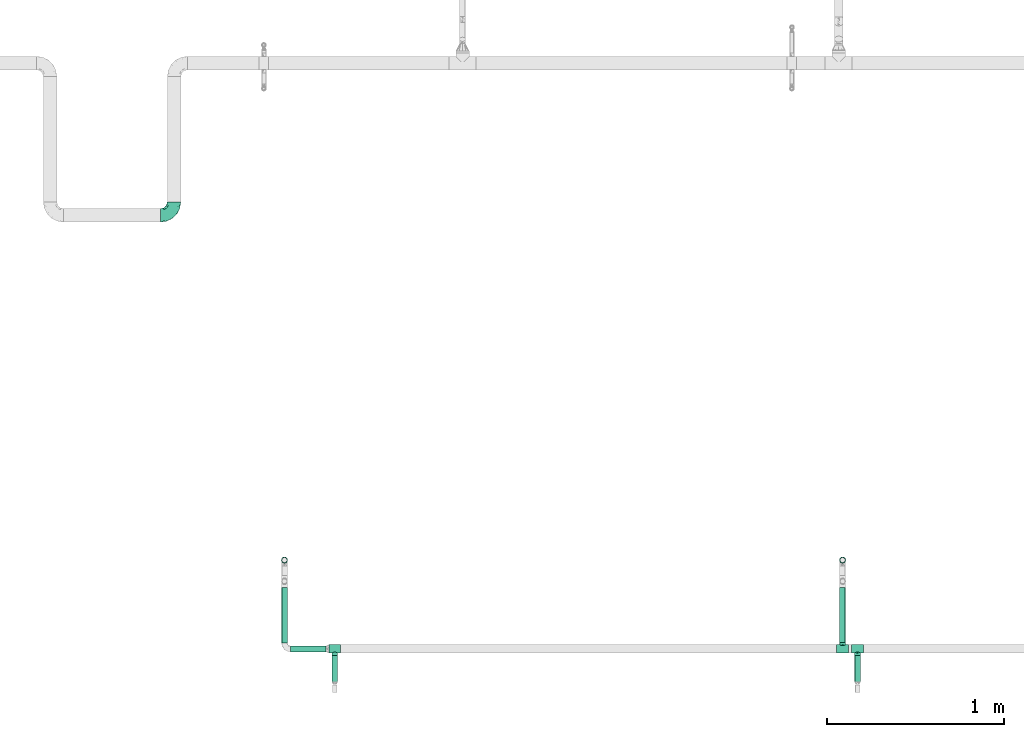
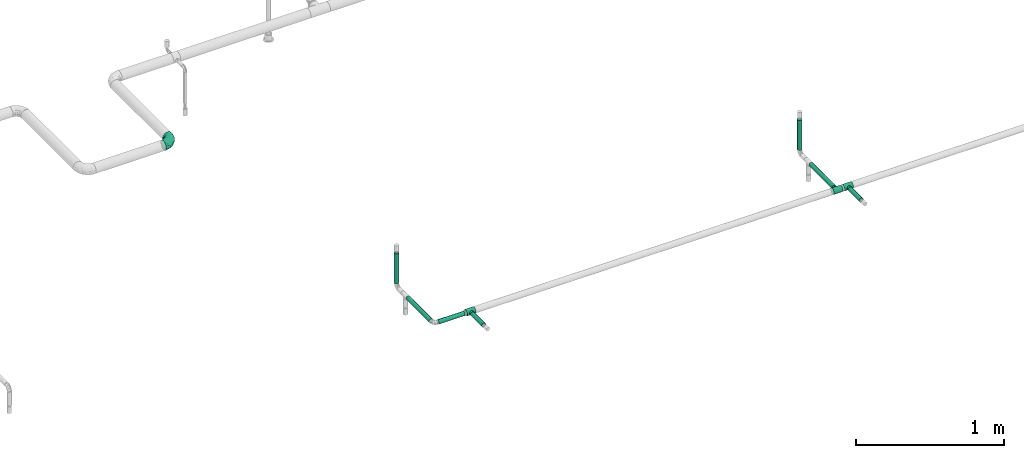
# One storey, part 3 of 51: 7 flow segments, 4 flow fittings.
"""IFC2X3 building model written with IfcOpenShell, lengths in millimetres."""

from ifc_helpers import new_model, entity, si_unit, converted_unit, derived_unit, direction, frame, origin_with_axes, origin_2d_with_axis, place, context, subcontext, project, spatial, hollow_circle, extrude, open_shell, surface_model, source, transform, mapped, type_object, element, save


model = new_model("IFC2X3")

# Units and contexts
model_context = context("Model", 3, precision=0.01, world=frame((0.0, 4.29681676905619e-09, 0.0)), true_north=direction((4.01073788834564e-13, 1.0)))
plan_context = context("Plan", 3, precision=0.01, world=frame((0.0, 4.29681676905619e-09, 0.0)), true_north=direction((4.01073788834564e-13, 1.0)))
body_context = subcontext(model_context, "Body", "Model", "MODEL_VIEW")
ifc_project = project(units=[converted_unit("PLANEANGLEUNIT", "DEGREE", entity("IfcPositiveLengthMeasure", 0.0174532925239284), si_unit("PLANEANGLEUNIT", "RADIAN"), dimensions=[0, 0, 0, 0, 0, 0, 0]), si_unit("AREAUNIT", "SQUARE_METRE"), si_unit("LENGTHUNIT", "METRE", prefix="MILLI"), si_unit("MASSUNIT", "GRAM", prefix="KILO"), si_unit("POWERUNIT", "WATT"), si_unit("PRESSUREUNIT", "PASCAL"), si_unit("FORCEUNIT", "NEWTON", prefix="KILO"), si_unit("ELECTRICVOLTAGEUNIT", "VOLT"), si_unit("ELECTRICCURRENTUNIT", "AMPERE"), si_unit("THERMODYNAMICTEMPERATUREUNIT", "DEGREE_CELSIUS"), si_unit("TIMEUNIT", "SECOND"), si_unit("VOLUMEUNIT", "CUBIC_METRE"), derived_unit("LINEARVELOCITYUNIT", [(si_unit("LENGTHUNIT", "METRE"), 1), (si_unit("TIMEUNIT", "SECOND"), -1)]), derived_unit("VOLUMETRICFLOWRATEUNIT", [(si_unit("VOLUMEUNIT", "CUBIC_METRE"), 1), (si_unit("TIMEUNIT", "SECOND"), -1)]), derived_unit("THERMALTRANSMITTANCEUNIT", [(si_unit("POWERUNIT", "WATT"), 1), (si_unit("THERMODYNAMICTEMPERATUREUNIT", "KELVIN"), -1), (si_unit("AREAUNIT", "SQUARE_METRE"), -1)]), derived_unit("SOUNDPRESSUREUNIT", [(si_unit("PRESSUREUNIT", "PASCAL"), 1)])], contexts=[model_context, plan_context])

# Site, building, storey
site_placement = place(None, frame((0.0, -4.29681676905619e-09, 0.0), z_axis=(0.0, 0.0, 1.0), x_axis=(1.0, 0.0, 0.0)))
site = spatial("IfcSite", under=ifc_project, at=site_placement, Name="ENGM", CompositionType="ELEMENT")
building_placement = place(site_placement, frame((0.0, 4.29681676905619e-09, 0.0), z_axis=(0.0, 0.0, 1.0), x_axis=(1.0, 0.0, 0.0)))
building = spatial("IfcBuilding", under=site, at=building_placement, Name="TH", CompositionType="ELEMENT")
storey_placement = place(building_placement, frame((0.0, 0.0, 210200.0), z_axis=(0.0, 0.0, 1.0), x_axis=(1.0, 0.0, 0.0)))
storey = spatial("IfcBuildingStorey", under=building, at=storey_placement, Name="Nivå F - 0,7 m", CompositionType="ELEMENT", Elevation=210200.0)

# Flow fittings
pipe_fitting_type_1 = type_object("IfcPipeFittingType", Name="magi_pipe_fe_tee_centric_90_NOR", PredefinedType="JUNCTION")
shared_shape_1 = source(origin_with_axes(), body_context, "Body", "SurfaceModel", [
    surface_model("IfcShellBasedSurfaceModel", [(-33.8, 0.0, -24.2), (-33.8, -6.26342, -23.37541), (-33.8, 6.26342, -23.37541), (-33.8, 12.1, -20.95781), (-33.8, 17.11198, -17.11198), (-33.8, 20.95781, -12.1), (-33.8, -23.37541, -6.26342), (-33.8, 23.37541, -6.26342), (-33.8, -17.11198, -17.11198), (-33.8, -20.95781, -12.1), (-33.8, -12.1, -20.95781), (-33.8, -24.2, 0.0), (-33.8, -23.37541, 6.26342), (-33.8, 20.95781, 12.1), (-33.8, 23.37541, 6.26342), (-33.8, 24.2, 0.0), (-33.8, 12.1, 20.95781), (-33.8, 17.11198, 17.11198), (-33.8, -17.11198, 17.11198), (-33.8, 6.26342, 23.37541), (-33.8, -20.95781, 12.1), (-33.8, -12.1, 20.95781), (-33.8, -6.26342, 23.37541), (-33.8, 0.0, 24.2), (33.8, 6.26342, -23.37541), (33.8, -6.26342, -23.37541), (33.8, 0.0, -24.2), (33.8, 17.11198, -17.11198), (33.8, 12.1, -20.95781), (33.8, -23.37541, -6.26342), (33.8, 20.95781, -12.1), (33.8, 23.37541, -6.26342), (33.8, -17.11198, -17.11198), (33.8, -12.1, -20.95781), (33.8, -20.95781, -12.1), (33.8, -24.2, 0.0), (33.8, 24.2, 0.0), (33.8, 23.37541, 6.26342), (33.8, 20.95781, 12.1), (33.8, -23.37541, 6.26342), (33.8, -17.11198, 17.11198), (33.8, 12.1, 20.95781), (33.8, 17.11198, 17.11198), (33.8, 6.26342, 23.37541), (33.8, -20.95781, 12.1), (33.8, -12.1, 20.95781), (33.8, 0.0, 24.2), (33.8, -6.26342, 23.37541), (15.81824, -23.45734, 5.94922), (16.9, -24.2, 0.0), (12.87025, -21.57947, 10.95293), (33.8, -19.0349, 14.60599), (8.52813, -19.30697, 14.59044), (3.03527, -17.5853, 16.6252), (-3.04044, -17.58619, 16.62425), (-8.52961, -19.30762, 14.58958), (-33.8, -19.0349, 14.60599), (-16.9, -24.2, 0.0), (-15.81885, -23.45775, 5.9476), (-12.87368, -21.58151, 10.9489), (3.03527, -17.5853, -16.6252), (33.8, -19.0349, -14.60599), (8.52813, -19.30697, -14.59044), (-8.52961, -19.30762, -14.58958), (-33.8, -19.0349, -14.60599), (12.87025, -21.57947, -10.95293), (-3.04044, -17.58619, -16.62425), (15.81824, -23.45734, -5.94922), (-12.87368, -21.58151, -10.9489), (-15.81885, -23.45775, -5.9476), (4.37404, -36.3, -16.32415), (-16.9, -36.3, 0.0), (0.0, -36.3, -16.9), (14.63583, -36.3, -8.45), (8.45, -36.3, -14.63583), (16.32415, -36.3, -4.37404), (11.9501, -36.3, -11.9501), (-11.9501, -36.3, -11.9501), (-8.45, -36.3, -14.63583), (-4.37404, -36.3, -16.32415), (-14.63583, -36.3, -8.45), (-16.32415, -36.3, -4.37404), (16.9, -36.3, 0.0), (8.45, -36.3, 14.63583), (16.32415, -36.3, 4.37404), (14.63583, -36.3, 8.45), (-8.45, -36.3, 14.63583), (11.9501, -36.3, 11.9501), (4.37404, -36.3, 16.32415), (-16.32415, -36.3, 4.37404), (-11.9501, -36.3, 11.9501), (-14.63583, -36.3, 8.45), (0.0, -36.3, 16.9), (-4.37404, -36.3, 16.32415), (-16.35943, -23.82888, 2.9738), (16.35912, -23.82867, 2.97461), (-0.00259, -17.58575, 16.62472), (16.35912, -23.82867, -2.97461), (-0.00259, -17.58575, -16.62472), (-16.35943, -23.82888, -2.9738)], [open_shell([[[0, 1, 2]], [[3, 2, 4]], [[5, 2, 6]], [[4, 2, 5]], [[7, 5, 6]], [[8, 9, 10]], [[1, 10, 9]], [[1, 9, 2]], [[9, 6, 2]], [[6, 11, 7]], [[11, 12, 7]], [[13, 14, 15]], [[13, 15, 12]], [[16, 17, 18]], [[12, 17, 13]], [[19, 16, 18]], [[20, 18, 12]], [[18, 17, 12]], [[21, 22, 18]], [[23, 18, 22]], [[18, 23, 19]], [[7, 12, 15]], [[24, 25, 26]], [[27, 24, 28]], [[29, 24, 30]], [[30, 24, 27]], [[29, 30, 31]], [[25, 32, 33]], [[32, 25, 34]], [[24, 34, 25]], [[24, 29, 34]], [[31, 35, 29]], [[31, 36, 35]], [[36, 37, 38]], [[39, 36, 38]], [[40, 38, 41]], [[41, 38, 42]], [[40, 41, 43]], [[39, 40, 44]], [[39, 38, 40]], [[45, 46, 47]], [[46, 45, 40]], [[43, 46, 40]], [[36, 39, 35]], [[35, 39, 48]], [[48, 49, 35]], [[39, 50, 48]], [[51, 40, 52]], [[52, 50, 44]], [[53, 52, 40]], [[54, 53, 21]], [[44, 50, 39]], [[55, 18, 56]], [[57, 58, 11]], [[12, 11, 58]], [[58, 59, 12]], [[55, 54, 18]], [[55, 20, 59]], [[20, 55, 56]], [[59, 20, 12]], [[18, 54, 21]], [[52, 44, 51]], [[53, 40, 45]], [[23, 47, 46]], [[22, 45, 47]], [[19, 46, 43]], [[38, 37, 14]], [[17, 41, 42]], [[13, 42, 38]], [[43, 41, 16]], [[15, 37, 36]], [[21, 45, 22]], [[22, 47, 23]], [[19, 23, 46]], [[43, 16, 19]], [[16, 41, 17]], [[13, 17, 42]], [[14, 13, 38]], [[37, 15, 14]], [[45, 21, 53]], [[5, 31, 30]], [[7, 36, 31]], [[4, 30, 27]], [[26, 25, 1]], [[2, 28, 24]], [[0, 24, 26]], [[27, 28, 3]], [[10, 25, 33]], [[15, 36, 7]], [[7, 31, 5]], [[4, 5, 30]], [[27, 3, 4]], [[3, 28, 2]], [[0, 2, 24]], [[1, 0, 26]], [[25, 10, 1]], [[33, 60, 10]], [[61, 34, 62]], [[63, 9, 64]], [[62, 60, 32]], [[34, 65, 62]], [[66, 10, 60]], [[29, 35, 67]], [[67, 65, 29]], [[49, 67, 35]], [[29, 65, 34]], [[66, 63, 8]], [[62, 32, 61]], [[64, 8, 63]], [[63, 68, 9]], [[8, 10, 66]], [[68, 69, 6]], [[69, 11, 6]], [[11, 69, 57]], [[68, 6, 9]], [[60, 33, 32]], [[70, 71, 72]], [[73, 70, 74]], [[73, 75, 70]], [[73, 74, 76]], [[71, 70, 75]], [[72, 77, 78]], [[78, 79, 72]], [[80, 71, 81]], [[77, 72, 80]], [[71, 80, 72]], [[75, 82, 71]], [[83, 82, 84]], [[83, 84, 85]], [[86, 71, 83]], [[83, 85, 87]], [[86, 83, 88]], [[89, 90, 91]], [[90, 89, 86]], [[86, 92, 93]], [[89, 71, 86]], [[88, 92, 86]], [[83, 71, 82]], [[89, 94, 71]], [[59, 91, 90]], [[89, 91, 58]], [[90, 86, 55]], [[89, 58, 94]], [[94, 57, 71]], [[58, 91, 59]], [[95, 48, 84]], [[55, 93, 54]], [[55, 59, 90]], [[92, 53, 96]], [[55, 86, 93]], [[53, 92, 88]], [[83, 52, 88]], [[87, 85, 50]], [[87, 52, 83]], [[48, 85, 84]], [[87, 50, 52]], [[52, 53, 88]], [[82, 95, 84]], [[48, 50, 85]], [[95, 82, 49]], [[92, 54, 93]], [[96, 54, 92]], [[75, 97, 82]], [[65, 73, 76]], [[75, 73, 67]], [[76, 74, 62]], [[97, 49, 82]], [[67, 73, 65]], [[62, 70, 60]], [[62, 65, 76]], [[72, 66, 98]], [[62, 74, 70]], [[99, 71, 57]], [[99, 69, 81]], [[75, 67, 97]], [[79, 66, 72]], [[69, 80, 81]], [[77, 80, 68]], [[72, 60, 70]], [[79, 63, 66]], [[63, 79, 78]], [[78, 77, 63]], [[63, 77, 68]], [[68, 80, 69]], [[71, 99, 81]], [[98, 60, 72]]])]),
])
for number, where, z_axis, x_axis, name in (
    (1, (903449.82472, 481023.05237, 2700.0), (0.0, 0.0, -1.0), (-1.0, 0.0, 0.0), "magi_pipe_fe_tee_centric_90_NOR"),
    (2, (900499.82472, 481023.05237, 2700.0), (0.0, 0.0, -1.0), (-1.0, 0.0, 0.0), "magi_pipe_fe_tee_centric_90_NOR"),
    (3, (903366.02472, 481023.05237, 2700.0), (0.0, 0.0, 1.0), (-1.0, 0.0, 0.0), "magi_pipe_fe_tee_centric_90_NOR"),
):
    element("IfcFlowFitting", number, at=place(storey_placement, frame(where, z_axis=z_axis, x_axis=x_axis)), inside=storey, type_object=pipe_fitting_type_1, Name=name, context=body_context, shape_type="MappedRepresentation", body=[
        mapped(shared_shape_1, transform((0.0, 0.0, 0.0), scale=1.0)),
    ])
pipe_fitting_type_2 = type_object("IfcPipeFittingType", Name="magi_pipe_fe_elbow_short_001", PredefinedType="BEND")
shared_shape_2 = source(origin_with_axes(), body_context, "Body", "SurfaceModel", [
    surface_model("IfcShellBasedSurfaceModel", [(-76.2, 19.05, -32.99557), (-76.2, 9.86101, -36.80177), (-76.2, 0.0, -38.1), (-76.2, 26.94077, -26.94077), (-76.2, 36.80177, -9.86101), (-76.2, 32.99557, -19.05), (-76.2, -26.94077, -26.94077), (-76.2, -36.80177, -9.86101), (-76.2, -19.05, -32.99557), (-76.2, -9.86101, -36.80177), (-76.2, -32.99557, -19.05), (-76.2, -38.1, 0.0), (-76.2, -36.80177, 9.86101), (-76.2, 26.94077, 26.94077), (-76.2, 36.80177, 9.86101), (-76.2, 32.99557, 19.05), (-76.2, 9.86101, 36.80177), (-76.2, 19.05, 32.99557), (-76.2, 0.0, 38.1), (-76.2, -32.99557, 19.05), (-76.2, -26.94077, 26.94077), (-76.2, -9.86101, 36.80177), (-76.2, -19.05, 32.99557), (-76.2, 38.1, 0.0), (0.0, 76.2, -38.1), (-9.86101, 76.2, -36.80177), (-19.05, 76.2, -32.99557), (-26.94077, 76.2, -26.94077), (-32.99557, 76.2, -19.05), (-36.80177, 76.2, -9.86101), (26.94077, 76.2, -26.94077), (36.80177, 76.2, -9.86101), (9.86101, 76.2, -36.80177), (19.05, 76.2, -32.99557), (32.99557, 76.2, -19.05), (36.80177, 76.2, 9.86101), (38.1, 76.2, 0.0), (-36.80177, 76.2, 9.86101), (-26.94077, 76.2, 26.94077), (-32.99557, 76.2, 19.05), (-19.05, 76.2, 32.99557), (-9.86101, 76.2, 36.80177), (0.0, 76.2, 38.1), (26.94077, 76.2, 26.94077), (32.99557, 76.2, 19.05), (9.86101, 76.2, 36.80177), (19.05, 76.2, 32.99557), (-38.1, 76.2, 0.0), (-51.47253, -33.41495, 11.97429), (-55.87921, -29.59735, 21.38675), (-40.87936, -32.50576, 0.0), (-57.46182, -35.13216, 0.0), (-9.7569, -13.15819, 14.69187), (-2.65186, -10.17769, 8.01257), (2.20082, -2.20082, 15.78668), (-58.2046, -5.04721, 37.4484), (-53.35237, 5.84022, 38.03506), (13.01533, 9.30417, 14.3119), (23.26567, 31.00373, 18.95093), (8.92292, 13.82363, 24.31711), (-37.93212, -0.34191, 36.92855), (-55.73356, -14.37507, 34.26516), (-29.5907, -8.99996, 31.84562), (-48.87429, -21.76577, 28.30344), (-34.13735, -29.20196, 7.83838), (-24.94775, -24.3882, 0.0), (-13.82363, -8.92292, 24.31711), (-6.80575, 6.80575, 31.14998), (-37.24299, 60.80967, 16.55959), (-31.82754, 59.31737, 25.03043), (-14.22204, 65.71998, 35.68746), (-5.22176, 56.99222, 38.00642), (-58.73143, 14.94265, 35.9909), (-9.94517, 25.51838, 37.4103), (-18.93111, 6.98952, 35.57772), (-3.89226, 20.58438, 35.01344), (-65.91802, 23.07271, 31.04479), (-13.24152, 37.4675, 38.03164), (-28.22122, 28.22122, 37.17425), (-22.68668, 16.64938, 37.90374), (-60.23482, 40.58212, 8.37688), (-60.8286, 37.23683, 16.55705), (-47.30619, 47.30619, 14.2421), (-59.55922, 31.76102, 25.00381), (21.76577, 48.87429, 28.30344), (-39.51357, 50.50487, 21.56421), (14.37507, 55.73356, 34.26516), (29.59735, 55.87921, 21.38675), (33.41495, 51.47253, 11.97429), (-9.01615, -16.27064, 0.0), (-18.50075, -20.95742, 9.87146), (5.04721, 58.2046, 37.4484), (-41.86713, 16.32002, 37.41817), (-37.38612, 9.33613, 38.08374), (24.3882, 24.94775, 0.0), (29.20196, 34.13735, 7.83838), (20.95742, 18.50075, 9.87146), (35.13216, 57.46182, 0.0), (-40.50473, 25.85184, 35.24027), (-31.00373, -23.26567, 18.95093), (-27.62233, 49.24446, 32.02197), (-23.27638, 63.88751, 31.20285), (-40.10509, 61.46399, 8.17366), (-47.75011, 49.97248, 6.70535), (17.55292, 30.69115, 25.82241), (8.99996, 29.5907, 31.84562), (-43.20443, 57.15, 0.0), (-35.27088, 40.23417, 31.3068), (-52.46543, 25.86294, 32.08413), (-0.58232, 0.58231, 22.50977), (-21.74145, 39.43998, 36.62577), (-30.35377, 36.8865, 34.66668), (-16.47755, 51.62643, 36.28492), (-40.16133, 42.54966, 26.98796), (-48.93373, 40.93898, 21.24545), (0.34191, 37.93212, 36.92855), (-30.54899, -16.70018, 26.56572), (10.38979, 2.76708, 7.59679), (32.50576, 40.87936, 0.0), (16.27064, 9.01615, 0.0), (-57.15, 43.20443, 0.0), (3.62725, -3.62725, 0.0), (-56.18403, 32.81229, -25.37784), (-60.79374, 37.24818, -16.56172), (-31.12583, -9.61531, -31.96506), (-33.08389, -0.47526, -36.23756), (-15.30809, -0.63756, -31.219), (-60.31522, 4.8175, -37.976), (-55.58208, -34.10815, -12.42093), (-47.87166, -28.25416, -20.6363), (-36.35476, -28.57081, -12.78243), (-55.4317, 15.55274, -36.12913), (-41.97308, 9.00674, -38.09177), (-32.8123, 56.18403, -25.37784), (-61.68117, 39.97816, -8.33686), (-23.91371, 59.81378, -31.51803), (-15.55274, 55.4317, -36.12913), (-48.48008, 48.48008, -9.09668), (22.76239, 55.12076, -28.76608), (13.14871, 48.24989, -33.88525), (15.02018, 64.34702, -34.67535), (-7.42295, -13.4022, -10.03386), (-7.53093, -9.8797, -17.36177), (4.09889, -3.23385, -10.05311), (-22.23209, 20.60173, -38.07837), (-36.11879, 22.54399, -36.96599), (-59.81378, 23.91371, -31.51803), (-64.14494, -30.32973, -22.13621), (-37.06617, 43.2809, -28.69704), (-35.21221, 35.21221, -33.45314), (-46.56802, 32.18433, -30.26847), (3.32253, -0.70027, -16.3296), (-55.12076, -22.76239, -28.76608), (28.25416, 47.87166, -20.6363), (34.10815, 55.58208, -12.42093), (28.57081, 36.35476, -12.78243), (-64.34702, -15.02018, -34.67535), (4.80394, 56.13349, -37.40338), (-24.08639, -18.54476, -20.78452), (-28.44745, -15.54194, -26.65272), (-13.81153, -9.41447, -23.82138), (-41.58053, -17.39667, -29.91543), (-48.24989, -13.14871, -33.88525), (-56.1335, -4.80394, -37.40338), (-28.5499, 46.87201, -32.27447), (-39.97816, 61.68117, -8.33686), (-4.8175, 60.31522, -37.976), (-13.45022, 13.45022, -35.97664), (0.47526, 33.08389, -36.23756), (1.60394, 17.89715, -31.77365), (-37.24818, 60.79374, -16.56172), (-45.75928, 45.75928, -18.77942), (30.32973, 64.14494, -22.13621), (22.08018, 30.6107, -20.46174), (12.28189, 14.44402, -21.13272), (15.54194, 28.44745, -26.65272), (7.87454, 32.5264, -33.28409), (-9.00674, 41.97308, -38.09177), (-46.32128, 24.51975, -34.33978), (-22.71812, 37.0764, -36.7817), (-0.36118, 0.36118, -22.07635), (-17.64772, -21.30183, -6.55407), (19.53658, 18.92928, -14.18962), (21.30183, 17.64772, -6.55407), (4.4885, 11.61303, -26.72553), (-18.92929, -19.53658, -14.18962)], [open_shell([[[0, 1, 2]], [[3, 0, 2]], [[4, 5, 3]], [[6, 3, 2]], [[4, 3, 7]], [[8, 6, 9]], [[6, 2, 9]], [[10, 7, 6]], [[6, 7, 3]], [[11, 12, 7]], [[12, 4, 7]], [[13, 14, 4]], [[15, 14, 13]], [[16, 17, 13]], [[4, 12, 13]], [[13, 18, 16]], [[19, 20, 12]], [[21, 12, 20]], [[22, 21, 20]], [[21, 13, 12]], [[21, 18, 13]], [[23, 4, 14]], [[24, 25, 26]], [[24, 26, 27]], [[27, 28, 29]], [[24, 27, 30]], [[31, 27, 29]], [[32, 30, 33]], [[32, 24, 30]], [[30, 31, 34]], [[27, 31, 30]], [[31, 35, 36]], [[31, 29, 35]], [[29, 37, 38]], [[38, 37, 39]], [[38, 40, 41]], [[29, 38, 35]], [[42, 38, 41]], [[35, 43, 44]], [[43, 35, 45]], [[43, 45, 46]], [[35, 38, 45]], [[38, 42, 45]], [[37, 29, 47]], [[48, 49, 19]], [[50, 48, 51]], [[52, 53, 54]], [[12, 48, 19]], [[12, 51, 48]], [[18, 55, 56]], [[19, 49, 20]], [[57, 58, 59]], [[60, 61, 62]], [[63, 22, 20]], [[63, 61, 22]], [[64, 50, 65]], [[62, 66, 67]], [[39, 68, 69]], [[41, 70, 71]], [[16, 72, 17]], [[73, 74, 75]], [[17, 76, 13]], [[21, 55, 18]], [[77, 78, 79]], [[80, 81, 82]], [[15, 83, 81]], [[84, 43, 46]], [[23, 14, 80]], [[14, 15, 81]], [[68, 85, 69]], [[83, 15, 13]], [[18, 56, 16]], [[46, 86, 84]], [[13, 76, 83]], [[87, 58, 88]], [[39, 37, 68]], [[89, 90, 65]], [[42, 91, 45]], [[65, 90, 64]], [[42, 41, 71]], [[92, 93, 79]], [[88, 35, 44]], [[44, 43, 87]], [[87, 88, 44]], [[94, 95, 96]], [[88, 97, 35]], [[98, 72, 92]], [[49, 99, 63]], [[69, 100, 101]], [[82, 102, 103]], [[104, 105, 59]], [[106, 102, 47]], [[98, 107, 108]], [[102, 82, 68]], [[86, 46, 45]], [[69, 38, 39]], [[109, 54, 57]], [[110, 100, 111]], [[22, 61, 21]], [[101, 40, 38]], [[70, 41, 40]], [[112, 77, 71]], [[84, 86, 105]], [[96, 95, 58]], [[100, 69, 113]], [[72, 16, 56]], [[108, 113, 83]], [[81, 114, 82]], [[112, 110, 77]], [[91, 71, 115]], [[62, 61, 63]], [[55, 61, 60]], [[116, 99, 66]], [[74, 62, 67]], [[91, 86, 45]], [[105, 86, 115]], [[75, 105, 115]], [[109, 67, 66]], [[59, 105, 67]], [[48, 64, 99]], [[99, 49, 48]], [[63, 20, 49]], [[43, 84, 87]], [[58, 87, 84]], [[92, 72, 56]], [[76, 72, 108]], [[102, 68, 37]], [[82, 114, 85]], [[98, 111, 107]], [[112, 70, 101]], [[114, 83, 113]], [[82, 103, 80]], [[92, 79, 78]], [[115, 71, 77]], [[74, 79, 60]], [[77, 79, 73]], [[71, 91, 42]], [[86, 91, 115]], [[61, 55, 21]], [[56, 55, 60]], [[57, 54, 117]], [[104, 59, 58]], [[116, 66, 62]], [[52, 99, 90]], [[12, 11, 51]], [[97, 88, 118]], [[97, 36, 35]], [[53, 90, 89]], [[90, 53, 52]], [[94, 96, 119]], [[88, 95, 118]], [[117, 54, 53]], [[92, 56, 93]], [[98, 92, 78]], [[111, 98, 78]], [[72, 98, 108]], [[110, 111, 78]], [[107, 111, 100]], [[47, 102, 37]], [[102, 106, 103]], [[106, 120, 103]], [[103, 120, 80]], [[23, 80, 120]], [[14, 81, 80]], [[56, 60, 93]], [[60, 79, 93]], [[117, 121, 119]], [[121, 117, 53]], [[53, 89, 121]], [[119, 96, 117]], [[117, 96, 57]], [[77, 110, 78]], [[100, 110, 112]], [[83, 114, 81]], [[85, 114, 113]], [[69, 85, 113]], [[82, 85, 68]], [[109, 52, 54]], [[99, 52, 66]], [[69, 101, 38]], [[112, 101, 100]], [[100, 113, 107]], [[108, 107, 113]], [[62, 74, 60]], [[75, 74, 67]], [[105, 75, 67]], [[73, 75, 115]], [[77, 73, 115]], [[74, 73, 79]], [[99, 64, 90]], [[50, 64, 48]], [[118, 95, 94]], [[58, 95, 88]], [[58, 57, 96]], [[109, 57, 59]], [[72, 76, 17]], [[83, 76, 108]], [[101, 70, 40]], [[71, 70, 112]], [[58, 84, 104]], [[105, 104, 84]], [[67, 109, 59]], [[52, 109, 66]], [[62, 63, 116]], [[99, 116, 63]], [[122, 5, 123]], [[124, 125, 126]], [[2, 1, 127]], [[128, 129, 130]], [[127, 131, 132]], [[28, 27, 133]], [[120, 134, 23]], [[135, 26, 136]], [[123, 134, 137]], [[138, 139, 140]], [[122, 3, 5]], [[141, 142, 143]], [[144, 132, 145]], [[131, 0, 146]], [[128, 10, 147]], [[148, 149, 150]], [[128, 51, 7]], [[142, 151, 143]], [[152, 6, 8]], [[153, 154, 155]], [[156, 152, 8]], [[32, 157, 24]], [[158, 159, 160]], [[147, 10, 6]], [[129, 152, 161]], [[156, 8, 9]], [[162, 163, 125]], [[154, 34, 31]], [[120, 106, 137]], [[149, 148, 164]], [[47, 29, 165]], [[163, 9, 2]], [[5, 4, 123]], [[25, 166, 136]], [[167, 168, 169]], [[170, 133, 171]], [[25, 24, 166]], [[33, 30, 138]], [[157, 32, 140]], [[29, 28, 170]], [[30, 34, 172]], [[26, 135, 27]], [[132, 131, 145]], [[32, 33, 140]], [[173, 174, 175]], [[169, 168, 176]], [[25, 136, 26]], [[175, 138, 173]], [[168, 177, 157]], [[163, 162, 156]], [[153, 172, 154]], [[10, 128, 7]], [[154, 97, 118]], [[131, 178, 145]], [[0, 3, 146]], [[175, 139, 138]], [[155, 118, 94]], [[131, 1, 0]], [[146, 178, 131]], [[170, 137, 165]], [[149, 179, 145]], [[171, 133, 148]], [[160, 180, 142]], [[65, 181, 89]], [[170, 165, 29]], [[137, 171, 123]], [[172, 138, 30]], [[138, 153, 173]], [[168, 157, 139]], [[166, 157, 177]], [[176, 175, 169]], [[168, 167, 144]], [[154, 31, 97]], [[155, 182, 173]], [[162, 124, 161]], [[147, 152, 129]], [[127, 163, 2]], [[132, 144, 125]], [[132, 125, 163]], [[125, 167, 126]], [[129, 158, 130]], [[31, 36, 97]], [[143, 182, 183]], [[169, 126, 167]], [[3, 122, 146]], [[178, 150, 149]], [[136, 179, 164]], [[133, 27, 135]], [[123, 4, 134]], [[122, 123, 171]], [[133, 170, 28]], [[137, 170, 171]], [[184, 175, 174]], [[180, 160, 126]], [[126, 169, 184]], [[126, 159, 124]], [[51, 128, 50]], [[51, 11, 7]], [[131, 127, 1]], [[163, 127, 132]], [[157, 166, 24]], [[136, 166, 177]], [[164, 179, 149]], [[144, 167, 125]], [[179, 144, 145]], [[168, 144, 177]], [[136, 177, 179]], [[144, 179, 177]], [[141, 121, 89]], [[89, 181, 141]], [[154, 118, 155]], [[183, 155, 94]], [[143, 183, 119]], [[119, 183, 94]], [[155, 183, 182]], [[181, 130, 185]], [[50, 128, 130]], [[130, 181, 65]], [[50, 130, 65]], [[141, 181, 185]], [[142, 141, 185]], [[143, 121, 141]], [[158, 160, 142]], [[142, 180, 151]], [[158, 142, 185]], [[126, 160, 159]], [[130, 158, 185]], [[129, 159, 158]], [[23, 134, 4]], [[120, 137, 134]], [[137, 106, 165]], [[47, 165, 106]], [[174, 151, 180]], [[182, 143, 151]], [[150, 146, 122]], [[149, 145, 178]], [[146, 150, 178]], [[122, 171, 148]], [[148, 150, 122]], [[164, 133, 135]], [[133, 164, 148]], [[164, 135, 136]], [[138, 140, 33]], [[157, 140, 139]], [[154, 172, 34]], [[138, 172, 153]], [[163, 156, 9]], [[152, 156, 162]], [[152, 147, 6]], [[128, 147, 129]], [[155, 173, 153]], [[174, 173, 182]], [[151, 174, 182]], [[174, 180, 184]], [[126, 184, 180]], [[175, 184, 169]], [[168, 139, 176]], [[175, 176, 139]], [[161, 124, 159]], [[125, 124, 162]], [[129, 161, 159]], [[162, 161, 152]], [[143, 119, 121]]])]),
])
flow_fitting_placement = place(storey_placement, frame((899592.9663, 483469.45519, 2933.0), z_axis=(0.0, 0.0, 1.0), x_axis=(1.0, 0.0, 0.0)))
element("IfcFlowFitting", 4, at=flow_fitting_placement, inside=storey, type_object=pipe_fitting_type_2, Name="magi_pipe_fe_elbow_short_001", context=body_context, shape_type="MappedRepresentation", body=[
    mapped(shared_shape_2, transform((0.0, 0.0, 0.0), scale=1.0)),
])

# Flow segments
pipe_segment_type = type_object("IfcPipeSegmentType", Name="Stålrør normaltykke", PredefinedType="RIGIDSEGMENT")
shared_shape_3 = source(origin_with_axes(), body_context, "Body", "SweptSolid", [
    extrude(hollow_circle(Radius=16.9, WallThickness=2.0, at=origin_2d_with_axis()), frame((0.0, 0.0, 0.0), z_axis=(1.0, 0.0, 0.0), x_axis=(0.0, 1.0, 0.0)), (0.0, 0.0, 1.0), 151.3),
])
for number, where, z_axis, x_axis in (
    (5, (900499.82472, 480835.45237, 2700.0), (0.0, 0.0, 1.0), (0.0, 1.0, 0.0)),
    (6, (903449.82472, 480986.75237, 2700.0), (0.0, 0.0, 1.0), (0.0, -1.0, 0.0)),
):
    element("IfcFlowSegment", number, at=place(storey_placement, frame(where, z_axis=z_axis, x_axis=x_axis)), inside=storey, type_object=pipe_segment_type, Name="Stålrør normaltykke", context=body_context, shape_type="MappedRepresentation", body=[
        mapped(shared_shape_3, transform((0.0, 0.0, 0.0), scale=1.0)),
    ])
shared_shape_4 = source(origin_with_axes(), body_context, "Body", "SweptSolid", [
    extrude(hollow_circle(Radius=16.9, WallThickness=2.0, at=origin_2d_with_axis()), frame((0.0, 0.0, 0.0), z_axis=(1.0, 0.0, 0.0), x_axis=(0.0, 1.0, 0.0)), (0.0, 0.0, 1.0), 201.6),
])
flow_segment_1_placement = place(storey_placement, frame((900451.42472, 481023.05237, 2700.0), z_axis=(0.0, 0.0, 1.0), x_axis=(-1.0, 0.0, 0.0)))
element("IfcFlowSegment", 7, at=flow_segment_1_placement, inside=storey, type_object=pipe_segment_type, Name="Stålrør normaltykke", context=body_context, shape_type="MappedRepresentation", body=[
    mapped(shared_shape_4, transform((0.0, 0.0, 0.0), scale=1.0, scale2=1.0, scale3=1.0, uniform=False)),
])
shared_shape_5 = source(origin_with_axes(), body_context, "Body", "SweptSolid", [
    extrude(hollow_circle(Radius=16.9, WallThickness=2.0, at=origin_2d_with_axis()), frame((0.0, 0.0, 0.0), z_axis=(1.0, 0.0, 0.0), x_axis=(0.0, 1.0, 0.0)), (0.0, 0.0, 1.0), 248.8),
])
for number, where, z_axis, x_axis in (
    (8, (900216.02472, 481524.00985, 2733.79999999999), (0.0, 1.0, 0.0), (0.0, 0.0, 1.0)),
    (9, (903366.02472, 481524.00985, 2733.79999999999), (0.0, 1.0, 0.0), (0.0, 0.0, 1.0)),
):
    element("IfcFlowSegment", number, at=place(storey_placement, frame(where, z_axis=z_axis, x_axis=x_axis)), inside=storey, type_object=pipe_segment_type, Name="Stålrør normaltykke", context=body_context, shape_type="MappedRepresentation", body=[
        mapped(shared_shape_5, transform((0.0, 0.0, 0.0), scale=1.0)),
    ])
shared_shape_6 = source(origin_with_axes(), body_context, "Body", "SweptSolid", [
    extrude(hollow_circle(Radius=16.9, WallThickness=2.0, at=origin_2d_with_axis()), frame((0.0, 0.0, 0.0), z_axis=(1.0, 0.0, 0.0), x_axis=(0.0, 1.0, 0.0)), (0.0, 0.0, 1.0), 313.7),
])
flow_segment_2_placement = place(storey_placement, frame((900216.02472, 481056.85237, 2700.0), z_axis=(0.0, 0.0, 1.0), x_axis=(0.0, 1.0, 0.0)))
element("IfcFlowSegment", 10, at=flow_segment_2_placement, inside=storey, type_object=pipe_segment_type, Name="Stålrør normaltykke", context=body_context, shape_type="MappedRepresentation", body=[
    mapped(shared_shape_6, transform((0.0, 0.0, 0.0), scale=1.0)),
])
shared_shape_7 = source(origin_with_axes(), body_context, "Body", "SweptSolid", [
    extrude(hollow_circle(Radius=16.9, WallThickness=2.0, at=origin_2d_with_axis()), frame((0.0, 0.0, 0.0), z_axis=(1.0, 0.0, 0.0), x_axis=(0.0, 1.0, 0.0)), (0.0, 0.0, 1.0), 311.2),
])
flow_segment_3_placement = place(storey_placement, frame((903366.02472, 481370.59138, 2700.0), z_axis=(0.0, 0.0, 1.0), x_axis=(0.0, -1.0, 0.0)))
element("IfcFlowSegment", 11, at=flow_segment_3_placement, inside=storey, type_object=pipe_segment_type, Name="Stålrør normaltykke", context=body_context, shape_type="MappedRepresentation", body=[
    mapped(shared_shape_7, transform((0.0, 0.0, 0.0), scale=1.0)),
])

save(model, "model.ifc")
